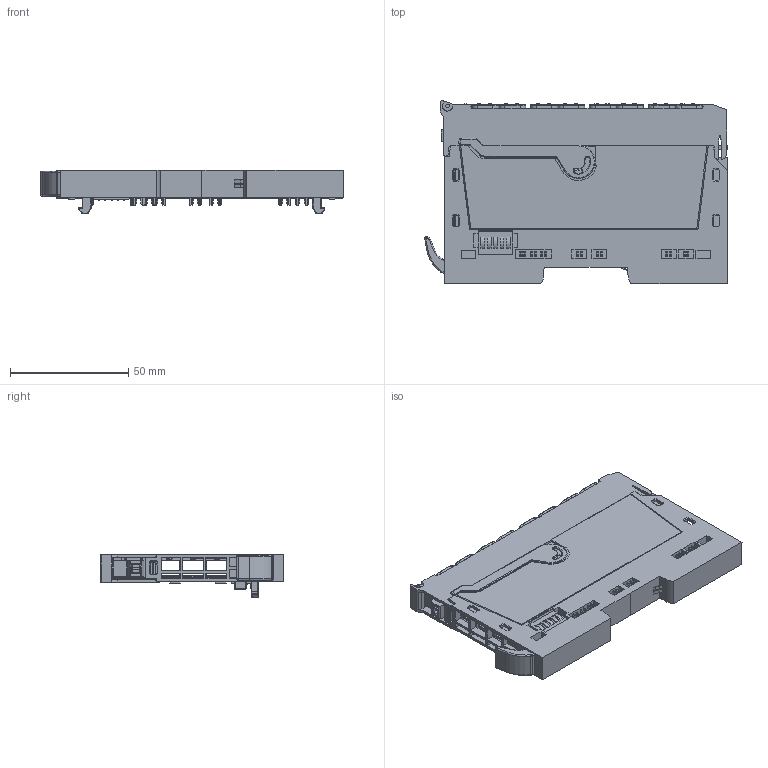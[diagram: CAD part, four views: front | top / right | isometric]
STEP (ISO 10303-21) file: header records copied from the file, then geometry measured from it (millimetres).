
FILE_DESCRIPTION(('CATIA V5R19 STEP'),'2;1');
FILE_NAME('\\srvde068\Desktop\w011128\Gordon Brandlable GE\Zusätzliche Module\UR20-8AI-I-16-HD.stp','2015-10-06T07:48:28+00:00',('Weidmueller Interface'),('WI'),'CATIA Version 5 Release 20 SP 5 (IN-10)','CATIA V5 STEP AP214','none');
FILE_SCHEMA(('AUTOMOTIVE_DESIGN { 1 0 10303 214 1 1 1 1 }'));
Products named in the file (1): UR20-8AI-I-16-HD
Bounding box: 127.88 x 77.45 x 18.5 mm (x, y, z)
Volume: 55318.2 mm3; surface area: 66606.8 mm2
Topology: 11 solids, 19 shells, 6877 faces, 18847 edges, 12195 vertices
Faces by surface type: plane 5321, cylinder 1103, cone 190, torus 178, sphere 61, bspline 22, extrusion 2
Entity records: 209085 total; most frequent: CARTESIAN_POINT 43522, ORIENTED_EDGE 37574, DIRECTION 28043, EDGE_CURVE 18787, VECTOR 15297, LINE 15295, VERTEX_POINT 12195, AXIS2_PLACEMENT_3D 7358
